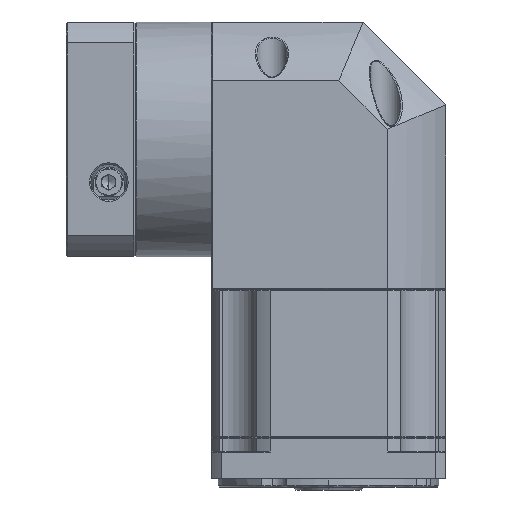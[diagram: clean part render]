
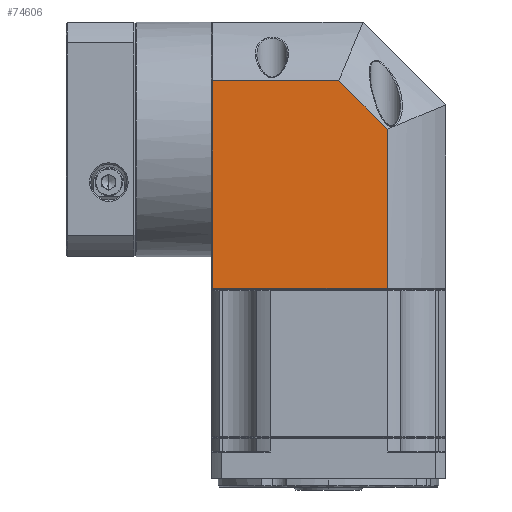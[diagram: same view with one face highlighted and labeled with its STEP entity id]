
A CAD part, left-side view. The second image highlights one B-rep face of the part: STEP entity #74606.
In plain terms, the highlighted planar face has unit normal (-1, 0, 0).
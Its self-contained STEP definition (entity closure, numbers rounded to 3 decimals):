
#1685 = VECTOR ( 'NONE', #107426, 1000. ) ;
#4283 = LINE ( 'NONE', #68540, #52489 ) ;
#6310 = EDGE_CURVE ( 'NONE', #106902, #23687, #77066, .T. ) ;
#7866 = EDGE_LOOP ( 'NONE', ( #35692, #55363, #66057, #77133, #78015 ) ) ;
#11114 = EDGE_CURVE ( 'NONE', #118001, #106902, #123104, .T. ) ;
#16843 = DIRECTION ( 'NONE',  ( 0., -0.707, -0.707 ) ) ;
#23687 = VERTEX_POINT ( 'NONE', #28473 ) ;
#26088 = CARTESIAN_POINT ( 'NONE',  ( -70.994, 39.825, 230.5 ) ) ;
#28400 = VERTEX_POINT ( 'NONE', #109407 ) ;
#28473 = CARTESIAN_POINT ( 'NONE',  ( -70.994, -23.888, 134. ) ) ;
#29996 = VERTEX_POINT ( 'NONE', #80719 ) ;
#32285 = FACE_OUTER_BOUND ( 'NONE', #7866, .T. ) ;
#33756 = LINE ( 'NONE', #45970, #1685 ) ;
#35692 = ORIENTED_EDGE ( 'NONE', *, *, #117406, .T. ) ;
#45970 = CARTESIAN_POINT ( 'NONE',  ( -70.994, 39.325, 230.5 ) ) ;
#46362 = DIRECTION ( 'NONE',  ( 1., 0., 0. ) ) ;
#50092 = DIRECTION ( 'NONE',  ( 0., -1., 0. ) ) ;
#52489 = VECTOR ( 'NONE', #78438, 1000. ) ;
#53320 = CARTESIAN_POINT ( 'NONE',  ( -70.994, -23.888, 234. ) ) ;
#55363 = ORIENTED_EDGE ( 'NONE', *, *, #6310, .F. ) ;
#58169 = CARTESIAN_POINT ( 'NONE',  ( -70.994, -6.358, 209.213 ) ) ;
#60984 = AXIS2_PLACEMENT_3D ( 'NONE', #26088, #46362, #98876 ) ;
#61919 = DIRECTION ( 'NONE',  ( 0., 0., -1. ) ) ;
#66057 = ORIENTED_EDGE ( 'NONE', *, *, #11114, .F. ) ;
#68540 = CARTESIAN_POINT ( 'NONE',  ( -70.994, 39.825, 134. ) ) ;
#70657 = CARTESIAN_POINT ( 'NONE',  ( -70.994, -6.358, 209.213 ) ) ;
#71276 = CARTESIAN_POINT ( 'NONE',  ( -70.994, 39.825, 209.213 ) ) ;
#74606 = ADVANCED_FACE ( 'NONE', ( #32285 ), #107821, .F. ) ;
#77066 = LINE ( 'NONE', #53320, #89976 ) ;
#77133 = ORIENTED_EDGE ( 'NONE', *, *, #81712, .F. ) ;
#78015 = ORIENTED_EDGE ( 'NONE', *, *, #127521, .F. ) ;
#78438 = DIRECTION ( 'NONE',  ( 0., -1., 0. ) ) ;
#80719 = CARTESIAN_POINT ( 'NONE',  ( -70.994, 39.325, 134. ) ) ;
#81712 = EDGE_CURVE ( 'NONE', #28400, #118001, #126030, .T. ) ;
#89976 = VECTOR ( 'NONE', #61919, 1000. ) ;
#98876 = DIRECTION ( 'NONE',  ( 0., 1., 0. ) ) ;
#103731 = CARTESIAN_POINT ( 'NONE',  ( -70.994, -23.888, 191.683 ) ) ;
#106902 = VERTEX_POINT ( 'NONE', #103731 ) ;
#107426 = DIRECTION ( 'NONE',  ( 0., 0., 1. ) ) ;
#107821 = PLANE ( 'NONE',  #60984 ) ;
#109407 = CARTESIAN_POINT ( 'NONE',  ( -70.994, 39.325, 209.213 ) ) ;
#111861 = VECTOR ( 'NONE', #16843, 1000. ) ;
#117406 = EDGE_CURVE ( 'NONE', #29996, #23687, #4283, .T. ) ;
#118001 = VERTEX_POINT ( 'NONE', #70657 ) ;
#123104 = LINE ( 'NONE', #58169, #111861 ) ;
#126030 = LINE ( 'NONE', #71276, #132455 ) ;
#127521 = EDGE_CURVE ( 'NONE', #29996, #28400, #33756, .T. ) ;
#132455 = VECTOR ( 'NONE', #50092, 1000. ) ;
